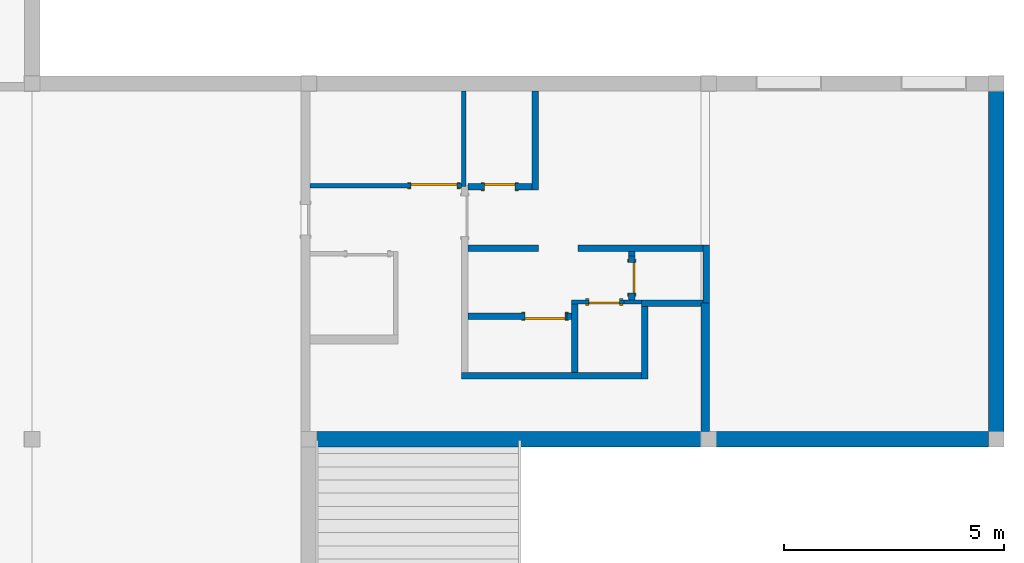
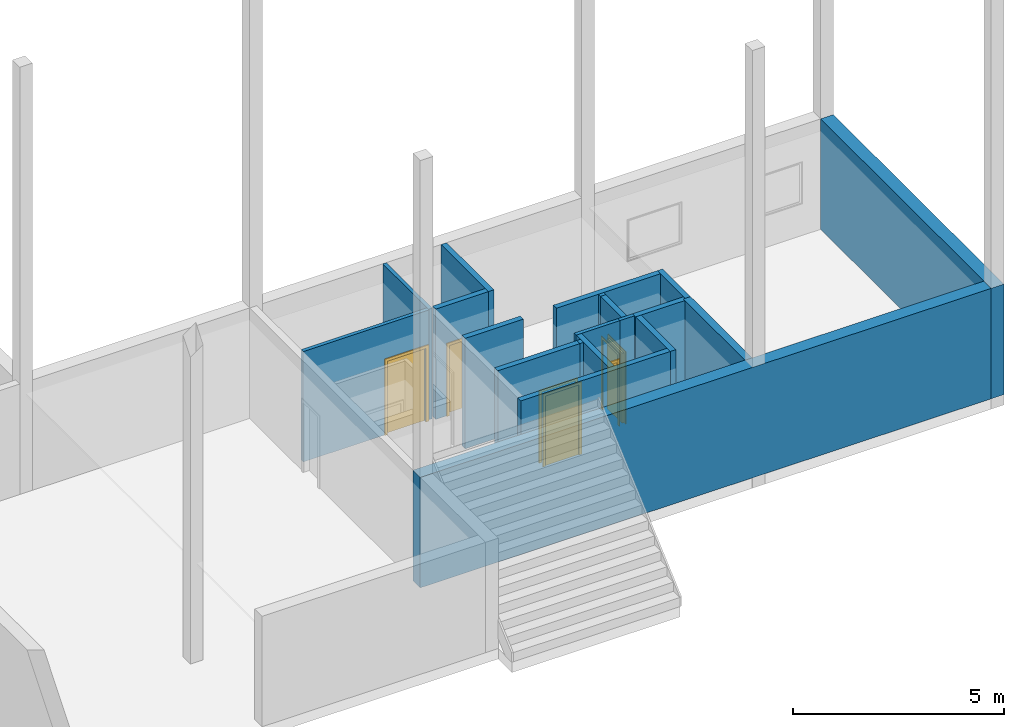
# One storey, part 3 of 5: 20 walls, 5 doors, 5 openings.
"""IFC2X3 building model written with IfcOpenShell, lengths in metres."""

import ifcopenshell
import ifcopenshell.guid

model = None  # the IFC model being written
_history = None  # IfcOwnerHistory: only IFC2X3 demands one
_inside = {}  # id of a spatial element -> (the spatial element, [elements in it])
_under = {}  # id of a project, library or spatial element -> (it, [spatial elements below it])
_declared = {}  # id of a project -> (the project, [libraries it declares])
_typed = {}  # id of a type object -> (the type object, [elements of that type])
_made_of = {}  # id of a material, layer set ... -> (it, [elements and type objects made of it])


def new_model(schema):
    """Start an empty IFC model of exactly this schema.

    Asked for "IFC4X3", IfcOpenShell would pick the latest addendum, in which some entities
    have other attributes; the version numbers below select the first issue.
    IFC2X3 requires an IfcOwnerHistory on every rooted entity: one is made here for all.
    """
    global model, _history
    if schema == "IFC4X3":
        model = ifcopenshell.file(schema_version=(4, 3, 0, 0))
    else:
        model = ifcopenshell.file(schema=schema)
    _inside.clear()
    _under.clear()
    _declared.clear()
    _typed.clear()
    _made_of.clear()
    _history = None
    if model.schema == "IFC2X3":
        org = make("IfcOrganization", Name="unknown")
        user = make(
            "IfcPersonAndOrganization",
            ThePerson=make("IfcPerson", FamilyName="unknown"),
            TheOrganization=org,
        )
        app = make(
            "IfcApplication",
            ApplicationDeveloper=org,
            Version="unknown",
            ApplicationFullName="unknown",
            ApplicationIdentifier="unknown",
        )
        _history = make(
            "IfcOwnerHistory",
            OwningUser=user,
            OwningApplication=app,
            ChangeAction="ADDED",
            CreationDate=0,
        )
    return model


def make(cls, **values):
    """One entity of the class cls with the attributes given. An attribute that is None is left unset."""
    return model.create_entity(
        cls, **{name: value for name, value in values.items() if value is not None}
    )


def entity(cls, *values):
    """Any entity or typed value of the class cls, its attributes in the order of the schema. None: left unset."""
    e = model.create_entity(cls)
    for i, value in enumerate(values):
        if value is not None:
            e[i] = value
    return e


def rooted(cls, **values):
    """An entity with a GlobalId (a new one), such as an element, a storey or a relation."""
    return make(cls, GlobalId=ifcopenshell.guid.new(), OwnerHistory=_history, **values)


def si_unit(unit_type, name, prefix=None):
    """IfcSIUnit, for example si_unit("LENGTHUNIT", "METRE", prefix="MILLI")."""
    return make("IfcSIUnit", UnitType=unit_type, Prefix=prefix, Name=name)


def converted_unit(unit_type, name, factor, base, dimensions=None, offset=None):
    """IfcConversionBasedUnit, such as the inch: factor (a typed value) times the base unit."""
    return make(
        "IfcConversionBasedUnit"
        if offset is None
        else "IfcConversionBasedUnitWithOffset",
        ConversionOffset=offset,
        Dimensions=None
        if dimensions is None
        else entity("IfcDimensionalExponents", *dimensions),
        UnitType=unit_type,
        Name=name,
        ConversionFactor=make(
            "IfcMeasureWithUnit", ValueComponent=factor, UnitComponent=base
        ),
    )


def derived_unit(unit_type, elements):
    """IfcDerivedUnit: a product of units, each with its exponent."""
    return make(
        "IfcDerivedUnit",
        Elements=[
            make("IfcDerivedUnitElement", Unit=unit, Exponent=power)
            for unit, power in elements
        ],
        UnitType=unit_type,
    )


def assignment(units):
    """IfcUnitAssignment: the units of a project."""
    return None if units is None else make("IfcUnitAssignment", Units=units)


def point(xyz):
    """IfcCartesianPoint."""
    return None if xyz is None else make("IfcCartesianPoint", Coordinates=xyz)


def direction(xyz):
    """IfcDirection."""
    return None if xyz is None else make("IfcDirection", DirectionRatios=xyz)


def frame(location, z_axis=None, x_axis=None):
    """IfcAxis2Placement3D, a coordinate frame: its origin and axes. An axis left out is left unset."""
    return make(
        "IfcAxis2Placement3D",
        Location=point(location),
        Axis=direction(z_axis),
        RefDirection=direction(x_axis),
    )


def frame_2d(location, x_axis=None):
    """IfcAxis2Placement2D, a coordinate frame in the plane: its origin and x axis."""
    return make(
        "IfcAxis2Placement2D", Location=point(location), RefDirection=direction(x_axis)
    )


def origin():
    """The frame at (0, 0, 0) with its axes left unset."""
    return frame((0.0, 0.0, 0.0))


def origin_2d_with_axis():
    """The frame at (0, 0) in the plane with the x axis (1, 0) written out."""
    return frame_2d((0.0, 0.0), x_axis=(1.0, 0.0))


def place(relative_to, where):
    """IfcLocalPlacement: puts the frame where relative to a parent placement (None: the world)."""
    return make(
        "IfcLocalPlacement", PlacementRelTo=relative_to, RelativePlacement=where
    )


def context(
    kind, dimensions, precision=None, world=None, true_north=None, identifier=None
):
    """IfcGeometricRepresentationContext, for example the 3D "Model" context."""
    return make(
        "IfcGeometricRepresentationContext",
        ContextIdentifier=identifier,
        ContextType=kind,
        CoordinateSpaceDimension=dimensions,
        Precision=precision,
        WorldCoordinateSystem=world,
        TrueNorth=true_north,
    )


def subcontext(parent, identifier, kind, view, scale=None):
    """IfcGeometricRepresentationSubContext, for example "Body" below "Model"."""
    return make(
        "IfcGeometricRepresentationSubContext",
        ContextIdentifier=identifier,
        ContextType=kind,
        ParentContext=parent,
        TargetScale=scale,
        TargetView=view,
    )


def project(units=None, contexts=None):
    """IfcProject with its units and contexts."""
    return rooted(
        "IfcProject",
        Name="project",
        RepresentationContexts=contexts,
        UnitsInContext=assignment(units),
    )


def spatial(cls, under=None, at=None, **own):
    """A site, building, storey or space (cls), placed at a placement, below another one or the project."""
    s = rooted(cls, ObjectPlacement=at, **own)
    if under is not None:
        _under.setdefault(under.id(), (under, []))[1].append(s)
    return s


def polyline(points):
    """IfcPolyline through the points."""
    return make("IfcPolyline", Points=[point(p) for p in points])


def profile(cls, at=None, kind="AREA", **sizes):
    """A parametric profile (cls). Its sizes go by their IFC names, for example OverallWidth=200.0."""
    return make(cls, ProfileType=kind, Position=at, **sizes)


def rectangle(**sizes):
    """IfcRectangleProfileDef."""
    return profile("IfcRectangleProfileDef", **sizes)


def outline(outer, holes=None, kind="AREA"):
    """IfcArbitraryClosedProfileDef: a profile drawn as a closed curve; with holes, ...WithVoids."""
    if holes is None:
        return make("IfcArbitraryClosedProfileDef", ProfileType=kind, OuterCurve=outer)
    return make(
        "IfcArbitraryProfileDefWithVoids",
        ProfileType=kind,
        OuterCurve=outer,
        InnerCurves=holes,
    )


def extrude(swept, where, along, depth):
    """IfcExtrudedAreaSolid: the profile swept, set in the frame where, extruded along a direction by depth."""
    return make(
        "IfcExtrudedAreaSolid",
        SweptArea=swept,
        Position=where,
        ExtrudedDirection=direction(along),
        Depth=depth,
    )


def shape(context_of_items, identifier, shape_type, items):
    """IfcShapeRepresentation: the items that make up one representation, for example the "Body"."""
    return make(
        "IfcShapeRepresentation",
        ContextOfItems=context_of_items,
        RepresentationIdentifier=identifier,
        RepresentationType=shape_type,
        Items=items,
    )


def source(mapping_origin, context_of_items, identifier, shape_type, items):
    """IfcRepresentationMap: a shape defined once, which mapped items show again and again."""
    return make(
        "IfcRepresentationMap",
        MappingOrigin=mapping_origin,
        MappedRepresentation=shape(context_of_items, identifier, shape_type, items),
    )


def transform(
    local_origin,
    x_axis=None,
    y_axis=None,
    z_axis=None,
    scale=None,
    scale2=None,
    scale3=None,
    uniform=True,
):
    """IfcCartesianTransformationOperator3D, or its non-uniform kind. x_axis, y_axis, z_axis: its Axis1, 2, 3."""
    if uniform:
        return make(
            "IfcCartesianTransformationOperator3D",
            Axis1=direction(x_axis),
            Axis2=direction(y_axis),
            LocalOrigin=point(local_origin),
            Scale=scale,
            Axis3=direction(z_axis),
        )
    return make(
        "IfcCartesianTransformationOperator3DnonUniform",
        Axis1=direction(x_axis),
        Axis2=direction(y_axis),
        LocalOrigin=point(local_origin),
        Scale=scale,
        Axis3=direction(z_axis),
        Scale2=scale2,
        Scale3=scale3,
    )


def mapped(mapping_source, mapping_target):
    """IfcMappedItem: shows the shape of a source again, moved by a transform."""
    return make(
        "IfcMappedItem", MappingSource=mapping_source, MappingTarget=mapping_target
    )


def material(Name=None, Category=None):
    """IfcMaterial."""
    return make("IfcMaterial", Name=Name, Category=Category)


def material_list(materials):
    """IfcMaterialList."""
    return make("IfcMaterialList", Materials=materials)


def layer(
    of_material, thickness, ventilated=None, Name=None, Category=None, Priority=None
):
    """IfcMaterialLayer: one layer of a wall or slab, of a material (None: an air gap)."""
    return make(
        "IfcMaterialLayer",
        Material=of_material,
        LayerThickness=thickness,
        IsVentilated=ventilated,
        Name=Name,
        Category=Category,
        Priority=Priority,
    )


def layer_set(layers, Name=None):
    """IfcMaterialLayerSet."""
    return make("IfcMaterialLayerSet", MaterialLayers=layers, LayerSetName=Name)


def layer_usage(for_layer_set, set_direction, sense, offset, extent=None):
    """IfcMaterialLayerSetUsage: how a layer set lies in its element."""
    return make(
        "IfcMaterialLayerSetUsage",
        ForLayerSet=for_layer_set,
        LayerSetDirection=set_direction,
        DirectionSense=sense,
        OffsetFromReferenceLine=offset,
        ReferenceExtent=extent,
    )


def made_of(thing, what):
    """Note that an element or type object is made of a material, layer set ...; save() writes the relation."""
    if what is not None:
        _made_of.setdefault(what.id(), (what, []))[1].append(thing)
    return thing


def type_object(cls, material=None, **own):
    """A type object (cls), such as IfcWallType, which elements share."""
    return made_of(rooted(cls, **own), material)


def type_shapes(of_type, sources):
    """Give a type object the sources (RepresentationMaps) that its elements show as mapped items."""
    of_type.RepresentationMaps = sources


def element(
    cls,
    number,
    at=None,
    inside=None,
    cuts=None,
    type_object=None,
    material=None,
    context=None,
    identifier="Body",
    shape_type=None,
    held_by="IfcProductDefinitionShape",
    body=None,
    shapes=None,
    **own,
):
    """One element of the class cls, such as IfcWall. Its Tag is "e" and its number.

    at: its placement. inside: the storey or other place that contains it. cuts: it is an
    opening in that element (IfcRelVoidsElement). A single representation is given by context,
    identifier, shape_type and body (its items); several are given by shapes. held_by: the class
    of the entity that holds the representations. save() writes the other relations.
    """
    e = rooted(cls, Tag="e%d" % number, ObjectPlacement=at, **own)
    if body is not None:
        shapes = [shape(context, identifier, shape_type, body)]
    if shapes is not None:
        e.Representation = make(held_by, Representations=shapes)
    if inside is not None:
        _inside.setdefault(inside.id(), (inside, []))[1].append(e)
    if cuts is not None:
        rooted(
            "IfcRelVoidsElement", RelatingBuildingElement=cuts, RelatedOpeningElement=e
        )
    if type_object is not None:
        _typed.setdefault(type_object.id(), (type_object, []))[1].append(e)
    return made_of(e, material)


def fill(opening, filler):
    """IfcRelFillsElement: the door or window that sits in an opening."""
    return rooted(
        "IfcRelFillsElement",
        RelatingOpeningElement=opening,
        RelatedBuildingElement=filler,
    )


def aggregate(whole, parts):
    """IfcRelAggregates: a whole, such as a stair, and the parts it consists of."""
    return rooted("IfcRelAggregates", RelatingObject=whole, RelatedObjects=parts)


def save(model, path):
    """Write the relations noted so far, then the file.

    IfcRelAggregates (storeys below a building ...), IfcRelContainedInSpatialStructure (elements
    in a storey), IfcRelDefinesByType, IfcRelAssociatesMaterial and IfcRelDeclares: one each for
    every whole, place, type object, material and project.
    """
    for whole, parts in _under.values():
        aggregate(whole, parts)
    for where, things in _inside.values():
        rooted(
            "IfcRelContainedInSpatialStructure",
            RelatedElements=things,
            RelatingStructure=where,
        )
    for kind, things in _typed.values():
        rooted("IfcRelDefinesByType", RelatedObjects=things, RelatingType=kind)
    for what, things in _made_of.values():
        rooted("IfcRelAssociatesMaterial", RelatedObjects=things, RelatingMaterial=what)
    for by, libraries in _declared.values():
        rooted("IfcRelDeclares", RelatingContext=by, RelatedDefinitions=libraries)
    model.write(path)


model = new_model("IFC2X3")

# Units and contexts
model_context = context("Model", 3, precision=1e-05, world=origin(), true_north=direction((6.123031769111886e-17, 1.0)))
body_context = subcontext(model_context, "Body", "Model", "MODEL_VIEW")
ifc_project = project(units=[si_unit("LENGTHUNIT", "METRE"), si_unit("AREAUNIT", "SQUARE_METRE"), si_unit("VOLUMEUNIT", "CUBIC_METRE"), converted_unit("PLANEANGLEUNIT", "DEGREE", entity("IfcRatioMeasure", 0.017453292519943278), si_unit("PLANEANGLEUNIT", "RADIAN"), dimensions=[0, 0, 0, 0, 0, 0, 0]), si_unit("MASSUNIT", "GRAM", prefix="KILO"), derived_unit("MASSDENSITYUNIT", [(si_unit("MASSUNIT", "GRAM", prefix="KILO"), 1), (si_unit("LENGTHUNIT", "METRE"), -3)]), derived_unit("MOMENTOFINERTIAUNIT", [(si_unit("LENGTHUNIT", "METRE"), 4)]), si_unit("TIMEUNIT", "SECOND"), si_unit("FREQUENCYUNIT", "HERTZ"), si_unit("THERMODYNAMICTEMPERATUREUNIT", "DEGREE_CELSIUS"), derived_unit("THERMALTRANSMITTANCEUNIT", [(si_unit("MASSUNIT", "GRAM", prefix="KILO"), 1), (si_unit("THERMODYNAMICTEMPERATUREUNIT", "KELVIN"), -1), (si_unit("TIMEUNIT", "SECOND"), -3)]), derived_unit("VOLUMETRICFLOWRATEUNIT", [(si_unit("LENGTHUNIT", "METRE"), 3), (si_unit("TIMEUNIT", "SECOND"), -1)]), derived_unit("MASSFLOWRATEUNIT", [(si_unit("MASSUNIT", "GRAM", prefix="KILO"), 1), (si_unit("TIMEUNIT", "SECOND"), -1)]), derived_unit("ROTATIONALFREQUENCYUNIT", [(si_unit("TIMEUNIT", "SECOND"), -1)]), si_unit("ELECTRICCURRENTUNIT", "AMPERE"), si_unit("ELECTRICVOLTAGEUNIT", "VOLT"), si_unit("POWERUNIT", "WATT"), si_unit("FORCEUNIT", "NEWTON", prefix="KILO"), si_unit("ILLUMINANCEUNIT", "LUX"), si_unit("LUMINOUSFLUXUNIT", "LUMEN"), si_unit("LUMINOUSINTENSITYUNIT", "CANDELA"), derived_unit("USERDEFINED", [(si_unit("MASSUNIT", "GRAM", prefix="KILO"), -1), (si_unit("LENGTHUNIT", "METRE"), -2), (si_unit("TIMEUNIT", "SECOND"), 3), (si_unit("LUMINOUSFLUXUNIT", "LUMEN"), 1)]), derived_unit("SOUNDPOWERUNIT", [(si_unit("MASSUNIT", "GRAM", prefix="KILO"), 1), (si_unit("LENGTHUNIT", "METRE"), 2), (si_unit("TIMEUNIT", "SECOND"), -3)]), derived_unit("SOUNDPRESSUREUNIT", [(si_unit("MASSUNIT", "GRAM", prefix="KILO"), 1), (si_unit("LENGTHUNIT", "METRE"), -1), (si_unit("TIMEUNIT", "SECOND"), -2)]), derived_unit("LINEARVELOCITYUNIT", [(si_unit("LENGTHUNIT", "METRE"), 1), (si_unit("TIMEUNIT", "SECOND"), -1)]), si_unit("PRESSUREUNIT", "PASCAL"), derived_unit("USERDEFINED", [(si_unit("LENGTHUNIT", "METRE"), -2), (si_unit("MASSUNIT", "GRAM", prefix="KILO"), 1), (si_unit("TIMEUNIT", "SECOND"), -2)]), derived_unit("LINEARFORCEUNIT", [(si_unit("MASSUNIT", "GRAM", prefix="KILO"), 1), (si_unit("LENGTHUNIT", "METRE"), 1), (si_unit("TIMEUNIT", "SECOND"), -2), (si_unit("LENGTHUNIT", "METRE"), -1)]), derived_unit("PLANARFORCEUNIT", [(si_unit("MASSUNIT", "GRAM", prefix="KILO"), 1), (si_unit("LENGTHUNIT", "METRE"), 1), (si_unit("TIMEUNIT", "SECOND"), -2), (si_unit("LENGTHUNIT", "METRE"), -2)])], contexts=[model_context])

# Site, building, storey
site_placement = place(None, origin())
site = spatial("IfcSite", under=ifc_project, at=site_placement, Name="Default", CompositionType="ELEMENT")
building_placement = place(site_placement, origin())
building = spatial("IfcBuilding", under=site, at=building_placement, CompositionType="ELEMENT")
storey_placement = place(building_placement, frame((0.0, 0.0, -2.3)))
storey = spatial("IfcBuildingStorey", under=building, at=storey_placement, Name="B1", CompositionType="ELEMENT", Elevation=-2.3)

# Walls
ifc_material_1 = material(Name="Masonry - Concrete Block")
ifc_layer_1 = layer(ifc_material_1, 0.35)
ifc_layer_set_1 = layer_set([ifc_layer_1], Name="Basic Wall:CW 102-50-100p")
ifc_layer_usage_1 = layer_usage(ifc_layer_set_1, "AXIS2", "NEGATIVE", 0.175)
wall_type_1 = type_object("IfcWallType", Name="Basic Wall:CW 102-50-100p", PredefinedType="STANDARD", material=ifc_layer_set_1)
wall_1_placement = place(storey_placement, frame((28.732683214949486, 2.6497074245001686, 0.0), z_axis=(0.0, 0.0, 1.0), x_axis=(0.0, -1.0, 0.0)))
element("IfcWallStandardCase", 1, at=wall_1_placement, inside=storey, type_object=wall_type_1, material=ifc_layer_usage_1, Name="Basic Wall:CW 102-50-100p", ObjectType="Basic Wall:CW 102-50-100p", context=body_context, shape_type="SweptSolid", body=[
    extrude(rectangle(XDim=8.099999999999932, YDim=0.3499999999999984, at=frame_2d((4.049999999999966, 2.7755575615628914e-16), x_axis=(-1.0, 0.0))), origin(), (0.0, 0.0, 1.0), 3.2),
])
ifc_layer_usage_2 = layer_usage(ifc_layer_set_1, "AXIS2", "NEGATIVE", 0.175)
wall_2_placement = place(storey_placement, frame((28.557683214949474, -5.275292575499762, 0.0), z_axis=(0.0, 0.0, 1.0), x_axis=(-1.0, 0.0, 0.0)))
element("IfcWallStandardCase", 2, at=wall_2_placement, inside=storey, type_object=wall_type_1, material=ifc_layer_usage_2, Name="Basic Wall:CW 102-50-100p", ObjectType="Basic Wall:CW 102-50-100p", context=body_context, shape_type="SweptSolid", body=[
    extrude(rectangle(XDim=15.650000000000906, YDim=0.3500000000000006, at=frame_2d((7.825000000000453, 0.0), x_axis=(-1.0, 0.0))), origin(), (0.0, 0.0, 1.0), 3.2),
])
ifc_layer_2 = layer(ifc_material_1, 0.2)
ifc_layer_set_2 = layer_set([ifc_layer_2], Name="Basic Wall:CW 200")
ifc_layer_usage_3 = layer_usage(ifc_layer_set_2, "AXIS2", "NEGATIVE", 0.1)
wall_type_2 = type_object("IfcWallType", Name="Basic Wall:CW 200", PredefinedType="STANDARD", material=ifc_layer_set_2)
wall_3_placement = place(storey_placement, frame((22.1076832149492, -5.100292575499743, 0.0), z_axis=(0.0, 0.0, 1.0), x_axis=(0.0, 1.0, 0.0)))
element("IfcWallStandardCase", 3, at=wall_3_placement, inside=storey, type_object=wall_type_2, material=ifc_layer_usage_3, Name="Basic Wall:CW 200", ObjectType="Basic Wall:CW 200", context=body_context, shape_type="SweptSolid", body=[
    extrude(rectangle(XDim=2.9249161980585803, YDim=0.19999999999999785, at=frame_2d((1.4624580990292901, -4.85722573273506e-17), x_axis=(-1.0, 0.0))), origin(), (0.0, 0.0, 1.0), 3.2),
])
ifc_layer_3 = layer(ifc_material_1, 0.1)
ifc_layer_set_3 = layer_set([ifc_layer_3], Name="Basic Wall:CW 100")
ifc_layer_usage_4 = layer_usage(ifc_layer_set_3, "AXIS2", "NEGATIVE", 0.05)
wall_type_3 = type_object("IfcWallType", Name="Basic Wall:CW 100", PredefinedType="STANDARD", material=ifc_layer_set_3)
wall_4_placement = place(storey_placement, frame((16.607683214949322, 2.649707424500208, 0.0), z_axis=(0.0, 0.0, 1.0), x_axis=(0.0, -1.0, 0.0)))
element("IfcWallStandardCase", 4, at=wall_4_placement, inside=storey, type_object=wall_type_3, material=ifc_layer_usage_4, Name="Basic Wall:CW 100", ObjectType="Basic Wall:CW 100", context=body_context, shape_type="SweptSolid", body=[
    extrude(rectangle(XDim=2.175000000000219, YDim=0.09999999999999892, at=frame_2d((1.0875000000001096, 7.632783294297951e-17), x_axis=(-1.0, 0.0))), origin(), (0.0, 0.0, 1.0), 3.2),
])

# Wall, opening, door
ifc_layer_usage_5 = layer_usage(ifc_layer_set_3, "AXIS2", "NEGATIVE", 0.05)
wall_5_placement = place(storey_placement, frame((16.557683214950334, 0.4997074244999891, 0.0), z_axis=(0.0, 0.0, 1.0), x_axis=(-1.0, 0.0, 0.0)))
wall_5 = element("IfcWallStandardCase", 5, at=wall_5_placement, inside=storey, type_object=wall_type_3, material=ifc_layer_usage_5, Name="Basic Wall:CW 100", ObjectType="Basic Wall:CW 100", context=body_context, shape_type="SweptSolid", body=[
    extrude(rectangle(XDim=3.4500000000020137, YDim=0.1, at=frame_2d((1.7250000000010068, 0.0), x_axis=(1.0, 0.0))), origin(), (0.0, 0.0, 1.0), 3.2),
])
opening_1_placement = place(wall_5_placement, frame((1.1500000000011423, 0.04999999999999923, 0.0)))
opening_1 = element("IfcOpeningElement", 6, at=opening_1_placement, cuts=wall_5, Name="M_Single-Flush:0915 x 2134mm:1", ObjectType="Opening", context=body_context, shape_type="SweptSolid", body=[
    extrude(rectangle(XDim=1.0499999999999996, YDim=2.1339999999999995, at=frame_2d((1.0669999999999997, 0.5249999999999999), x_axis=(0.0, -1.0))), frame((0.0, 0.0, 0.0), z_axis=(0.0, -1.0, 0.0), x_axis=(0.0, 0.0, 1.0)), (0.0, 0.0, 1.0), 0.1),
])
ifc_material_2 = material(Name="Door - Frame")
ifc_material_3 = material(Name="Door - Panel")
ifc_material_list_1 = material_list([ifc_material_2, ifc_material_2, ifc_material_3])
ifc_material_list_2 = material_list([ifc_material_2, ifc_material_2, ifc_material_3])
door_style_1 = type_object("IfcDoorStyle", Name="M_Single-Flush:0915 x 2134mm", ConstructionType="NOTDEFINED", OperationType="NOTDEFINED", ParameterTakesPrecedence=False, Sizeable=False, material=ifc_material_list_2)
shared_shape_1 = source(origin(), body_context, "Body", "SweptSolid", [
    extrude(outline(polyline([(-0.601, -1.123999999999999), (0.6009999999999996, -1.123999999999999), (0.6009999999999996, 1.0860000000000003), (0.5250000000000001, 1.0860000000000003), (0.5250000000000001, -1.0480000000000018), (-0.5249999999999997, -1.0480000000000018), (-0.5249999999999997, 1.0860000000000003), (-0.601, 1.0860000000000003), (-0.601, -1.123999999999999)])), frame((0.525, 0.12499999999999, 1.0860000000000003), z_axis=(0.0, -1.0, 0.0), x_axis=(-1.0, 0.0, 0.0)), (0.0, 0.0, 1.0), 0.024999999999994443),
    extrude(outline(polyline([(-1.1239999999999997, -0.6009999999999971), (1.0859999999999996, -0.6009999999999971), (1.0859999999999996, -0.5250000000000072), (-1.0479999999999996, -0.5250000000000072), (-1.0479999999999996, 0.5250000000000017), (1.0859999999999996, 0.5250000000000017), (1.0859999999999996, 0.6010000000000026), (-1.1239999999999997, 0.6010000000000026), (-1.1239999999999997, -0.6009999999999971)])), frame((0.5249999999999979, 0.0, 1.0859999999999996), z_axis=(0.0, -1.0, 0.0), x_axis=(0.0, 0.0, -1.0)), (0.0, 0.0, 1.0), 0.02500000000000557),
    extrude(rectangle(XDim=1.0499999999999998, YDim=0.051000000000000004, at=origin_2d_with_axis()), frame((0.5250000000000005, 0.07449999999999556, 0.0)), (0.0, 0.0, 1.0), 2.133999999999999),
])
type_shapes(door_style_1, [shared_shape_1])
door_1_placement = place(opening_1_placement, frame((0.0, 0.0, 0.0), z_axis=(0.0, 0.0, 1.0), x_axis=(-1.0, 0.0, 0.0)))
door_1 = element("IfcDoor", 7, at=door_1_placement, inside=storey, type_object=door_style_1, material=ifc_material_list_1, Name="M_Single-Flush:0915 x 2134mm", ObjectType="M_Single-Flush:0915 x 2134mm", OverallHeight=2.1339999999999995, OverallWidth=1.0499999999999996, context=body_context, shape_type="MappedRepresentation", body=[
    mapped(shared_shape_1, transform((0.0, 0.0, 0.0), scale=1.0)),
])
fill(opening_1, door_1)

ifc_layer_usage_6 = layer_usage(ifc_layer_set_3, "AXIS2", "NEGATIVE", 0.05)
wall_6_placement = place(storey_placement, frame((19.059190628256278, -2.1502875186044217, 0.0)))
wall_6 = element("IfcWallStandardCase", 8, at=wall_6_placement, inside=storey, type_object=wall_type_3, material=ifc_layer_usage_6, Name="Basic Wall:CW 100", ObjectType="Basic Wall:CW 100", context=body_context, shape_type="SweptSolid", body=[
    extrude(rectangle(XDim=1.1999999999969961, YDim=0.1, at=frame_2d((0.5999999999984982, -1.3530843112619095e-16), x_axis=(1.0, 0.0))), origin(), (0.0, 0.0, 1.0), 3.2),
])
opening_2_placement = place(wall_6_placement, frame((1.099999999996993, 0.04999999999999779, 0.0)))
opening_2 = element("IfcOpeningElement", 9, at=opening_2_placement, cuts=wall_6, Name="M_Single-Flush:0762 x 2032mm:1", ObjectType="Opening", context=body_context, shape_type="SweptSolid", body=[
    extrude(rectangle(XDim=0.6999999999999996, YDim=2.0319999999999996, at=frame_2d((1.0159999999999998, 0.3499999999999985), x_axis=(0.0, 1.0))), frame((0.0, 0.0, 0.0), z_axis=(0.0, -1.0, 0.0), x_axis=(0.0, 0.0, 1.0)), (0.0, 0.0, 1.0), 0.1),
])
ifc_material_list_3 = material_list([ifc_material_2, ifc_material_3])
ifc_material_list_4 = material_list([ifc_material_2, ifc_material_2, ifc_material_3])
door_style_2 = type_object("IfcDoorStyle", Name="M_Single-Flush:0762 x 2032mm", ConstructionType="NOTDEFINED", OperationType="NOTDEFINED", ParameterTakesPrecedence=False, Sizeable=False, material=ifc_material_list_4)
shared_shape_2 = source(origin(), body_context, "Body", "SweptSolid", [
    extrude(outline(polyline([(-0.426, -1.0729999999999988), (0.4259999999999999, -1.0729999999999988), (0.4259999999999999, 1.0350000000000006), (0.3499999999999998, 1.0350000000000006), (0.3499999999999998, -0.9970000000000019), (-0.3499999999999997, -0.9970000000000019), (-0.3499999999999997, 1.0350000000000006), (-0.426, 1.0350000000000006), (-0.426, -1.0729999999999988)])), frame((0.3500000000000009, 0.10000000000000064, 1.0350000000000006), z_axis=(0.0, 1.0, 0.0), x_axis=(1.0, 0.0, 0.0)), (0.0, 0.0, 1.0), 0.024999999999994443),
    extrude(outline(polyline([(-1.0729999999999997, -0.42599999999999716), (1.0349999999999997, -0.42599999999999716), (1.0349999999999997, -0.3500000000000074), (-0.9969999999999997, -0.3500000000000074), (-0.9969999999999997, 0.35000000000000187), (1.0349999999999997, 0.35000000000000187), (1.0349999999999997, 0.4260000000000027), (-1.0729999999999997, 0.4260000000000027), (-1.0729999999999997, -0.42599999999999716)])), frame((0.35000000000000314, -0.025000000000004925, 1.0349999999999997), z_axis=(0.0, 1.0, 0.0), x_axis=(0.0, 0.0, -1.0)), (0.0, 0.0, 1.0), 0.025000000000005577),
    extrude(rectangle(XDim=0.051000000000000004, YDim=0.6999999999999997, at=origin_2d_with_axis()), frame((0.3500000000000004, 0.07450000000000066, 0.0), z_axis=(0.0, 0.0, 1.0), x_axis=(0.0, 1.0, 0.0)), (0.0, 0.0, 1.0), 2.0319999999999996),
])
type_shapes(door_style_2, [shared_shape_2])
door_2_placement = place(opening_2_placement, frame((0.0, 0.0, 0.0), z_axis=(0.0, 0.0, 1.0), x_axis=(-1.0, 0.0, 0.0)))
door_2 = element("IfcDoor", 10, at=door_2_placement, inside=storey, type_object=door_style_2, material=ifc_material_list_3, Name="M_Single-Flush:0762 x 2032mm", ObjectType="M_Single-Flush:0762 x 2032mm", OverallHeight=2.0319999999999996, OverallWidth=0.6999999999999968, context=body_context, shape_type="MappedRepresentation", body=[
    mapped(shared_shape_2, transform((0.0, 0.0, 0.0), scale=1.0)),
])
fill(opening_2, door_2)

# Walls
ifc_layer_usage_7 = layer_usage(ifc_layer_set_3, "AXIS2", "NEGATIVE", 0.05)
wall_7_placement = place(storey_placement, frame((20.6576832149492, -2.1503763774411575, 0.0), z_axis=(0.0, 0.0, 1.0), x_axis=(-1.0, 0.0, 0.0)))
element("IfcWallStandardCase", 11, at=wall_7_placement, inside=storey, type_object=wall_type_3, material=ifc_layer_usage_7, Name="Basic Wall:CW 100", ObjectType="Basic Wall:CW 100", context=body_context, shape_type="SweptSolid", body=[
    extrude(rectangle(XDim=0.39849258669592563, YDim=0.1, at=frame_2d((0.19924629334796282, 0.0), x_axis=(-1.0, 0.0))), origin(), (0.0, 0.0, 1.0), 3.2),
])
ifc_layer_4 = layer(ifc_material_1, 0.14999999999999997)
ifc_layer_set_4 = layer_set([ifc_layer_4], Name="Basic Wall:CW 150")
ifc_layer_usage_8 = layer_usage(ifc_layer_set_4, "AXIS2", "NEGATIVE", 0.07499999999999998)
wall_type_4 = type_object("IfcWallType", Name="Basic Wall:CW 150", PredefinedType="STANDARD", material=ifc_layer_set_4)
wall_8_placement = place(storey_placement, frame((18.23268321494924, 2.649707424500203, 0.0), z_axis=(0.0, 0.0, 1.0), x_axis=(0.0, -1.0, 0.0)))
element("IfcWallStandardCase", 12, at=wall_8_placement, inside=storey, type_object=wall_type_4, material=ifc_layer_usage_8, Name="Basic Wall:CW 150", ObjectType="Basic Wall:CW 150", context=body_context, shape_type="SweptSolid", body=[
    extrude(rectangle(XDim=2.2500000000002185, YDim=0.15000000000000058, at=frame_2d((1.1250000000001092, 1.5959455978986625e-16), x_axis=(-1.0, 0.0))), origin(), (0.0, 0.0, 1.0), 3.2),
])

# Wall, opening, door
ifc_layer_usage_9 = layer_usage(ifc_layer_set_4, "AXIS2", "NEGATIVE", 0.07499999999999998)
wall_9_placement = place(storey_placement, frame((18.157683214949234, 0.474707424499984, 0.0), z_axis=(0.0, 0.0, 1.0), x_axis=(-1.0, 0.0, 0.0)))
wall_9 = element("IfcWallStandardCase", 13, at=wall_9_placement, inside=storey, type_object=wall_type_4, material=ifc_layer_usage_9, Name="Basic Wall:CW 150", ObjectType="Basic Wall:CW 150", context=body_context, shape_type="SweptSolid", body=[
    extrude(rectangle(XDim=1.4499999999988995, YDim=0.15000000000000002, at=frame_2d((0.7249999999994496, -6.938893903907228e-18), x_axis=(1.0, 0.0))), origin(), (0.0, 0.0, 1.0), 3.2),
])
opening_3_placement = place(wall_9_placement, frame((1.079999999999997, 0.07499999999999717, 0.0)))
opening_3 = element("IfcOpeningElement", 14, at=opening_3_placement, cuts=wall_9, Name="M_Single-Flush:0762 x 2032mm:1", ObjectType="Opening", context=body_context, shape_type="SweptSolid", body=[
    extrude(rectangle(XDim=0.6999999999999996, YDim=2.0319999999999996, at=frame_2d((1.0159999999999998, 0.34999999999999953), x_axis=(0.0, 1.0))), frame((0.0, 0.0, 0.0), z_axis=(0.0, -1.0, 0.0), x_axis=(0.0, 0.0, 1.0)), (0.0, 0.0, 1.0), 0.14999999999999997),
])
ifc_material_list_5 = material_list([ifc_material_2, ifc_material_3])
ifc_material_list_6 = material_list([ifc_material_2, ifc_material_2, ifc_material_3])
door_style_3 = type_object("IfcDoorStyle", Name="M_Single-Flush:0762 x 2032mm", ConstructionType="NOTDEFINED", OperationType="NOTDEFINED", ParameterTakesPrecedence=False, Sizeable=False, material=ifc_material_list_6)
shared_shape_3 = source(origin(), body_context, "Body", "SweptSolid", [
    extrude(outline(polyline([(-0.426, -1.0729999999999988), (0.4259999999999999, -1.0729999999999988), (0.4259999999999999, 1.0350000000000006), (0.3499999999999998, 1.0350000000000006), (0.3499999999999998, -0.9970000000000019), (-0.3499999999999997, -0.9970000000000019), (-0.3499999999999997, 1.0350000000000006), (-0.426, 1.0350000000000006), (-0.426, -1.0729999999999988)])), frame((0.35000000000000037, 0.15000000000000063, 1.0350000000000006), z_axis=(0.0, 1.0, 0.0), x_axis=(1.0, 0.0, 0.0)), (0.0, 0.0, 1.0), 0.024999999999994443),
    extrude(outline(polyline([(-1.0729999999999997, -0.42599999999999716), (1.0349999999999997, -0.42599999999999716), (1.0349999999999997, -0.3500000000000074), (-0.9969999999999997, -0.3500000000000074), (-0.9969999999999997, 0.35000000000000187), (1.0349999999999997, 0.35000000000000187), (1.0349999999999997, 0.4260000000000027), (-1.0729999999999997, 0.4260000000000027), (-1.0729999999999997, -0.42599999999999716)])), frame((0.35000000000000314, -0.025000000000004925, 1.0349999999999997), z_axis=(0.0, 1.0, 0.0), x_axis=(0.0, 0.0, -1.0)), (0.0, 0.0, 1.0), 0.025000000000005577),
    extrude(rectangle(XDim=0.051000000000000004, YDim=0.6999999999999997, at=frame_2d((-3.469446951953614e-18, 0.0), x_axis=(1.0, 0.0))), frame((0.35000000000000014, 0.12450000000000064, 0.0), z_axis=(0.0, 0.0, 1.0), x_axis=(0.0, 1.0, 0.0)), (0.0, 0.0, 1.0), 2.0319999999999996),
])
type_shapes(door_style_3, [shared_shape_3])
door_3_placement = place(opening_3_placement, frame((0.0, 0.0, 0.0), z_axis=(0.0, 0.0, 1.0), x_axis=(-1.0, 0.0, 0.0)))
door_3 = element("IfcDoor", 15, at=door_3_placement, inside=storey, type_object=door_style_3, material=ifc_material_list_5, Name="M_Single-Flush:0762 x 2032mm", ObjectType="M_Single-Flush:0762 x 2032mm", OverallHeight=2.0319999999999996, OverallWidth=0.699999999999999, context=body_context, shape_type="MappedRepresentation", body=[
    mapped(shared_shape_3, transform((0.0, 0.0, 0.0), scale=1.0)),
])
fill(opening_3, door_3)

# Walls
ifc_layer_usage_10 = layer_usage(ifc_layer_set_4, "AXIS2", "NEGATIVE", 0.07499999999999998)
wall_10_placement = place(storey_placement, frame((22.132683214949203, -2.175376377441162, 0.0), z_axis=(0.0, 0.0, 1.0), x_axis=(0.0, 1.0, 0.0)))
element("IfcWallStandardCase", 16, at=wall_10_placement, inside=storey, type_object=wall_type_4, material=ifc_layer_usage_10, Name="Basic Wall:CW 150", ObjectType="Basic Wall:CW 150", context=body_context, shape_type="SweptSolid", body=[
    extrude(rectangle(XDim=1.3249999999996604, YDim=0.15000000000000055, at=frame_2d((0.6624999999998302, 0.0), x_axis=(-1.0, 0.0))), origin(), (0.0, 0.0, 1.0), 3.2),
])
ifc_layer_usage_11 = layer_usage(ifc_layer_set_4, "AXIS2", "NEGATIVE", 0.07499999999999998)
wall_11_placement = place(storey_placement, frame((22.0576832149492, -0.9253763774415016, 0.0), z_axis=(0.0, 0.0, 1.0), x_axis=(-1.0, 0.0, 0.0)))
element("IfcWallStandardCase", 17, at=wall_11_placement, inside=storey, type_object=wall_type_4, material=ifc_layer_usage_11, Name="Basic Wall:CW 150", ObjectType="Basic Wall:CW 150", context=body_context, shape_type="SweptSolid", body=[
    extrude(rectangle(XDim=2.8500000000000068, YDim=0.15000000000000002, at=frame_2d((1.4250000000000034, 2.0816681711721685e-17), x_axis=(-1.0, 0.0))), origin(), (0.0, 0.0, 1.0), 3.2),
])
ifc_layer_usage_12 = layer_usage(ifc_layer_set_4, "AXIS2", "NEGATIVE", 0.07499999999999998)
wall_12_placement = place(storey_placement, frame((20.434190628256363, -1.0003763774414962, 0.0), z_axis=(0.0, 0.0, 1.0), x_axis=(0.0, -1.0, 0.0)))
element("IfcWallStandardCase", 18, at=wall_12_placement, inside=storey, type_object=wall_type_4, material=ifc_layer_usage_12, Name="Basic Wall:CW 150", ObjectType="Basic Wall:CW 150", context=body_context, shape_type="SweptSolid", body=[
    extrude(rectangle(XDim=0.09991114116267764, YDim=0.15000000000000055, at=frame_2d((0.04995557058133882, 0.0), x_axis=(-1.0, 0.0))), origin(), (0.0, 0.0, 1.0), 3.2),
])
ifc_layer_usage_13 = layer_usage(ifc_layer_set_4, "AXIS2", "NEGATIVE", 0.07499999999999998)
wall_13_placement = place(storey_placement, frame((22.0576832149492, -2.175376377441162, 0.0), z_axis=(0.0, 0.0, 1.0), x_axis=(-1.0, 0.0, 0.0)))
element("IfcWallStandardCase", 19, at=wall_13_placement, inside=storey, type_object=wall_type_4, material=ifc_layer_usage_13, Name="Basic Wall:CW 150", ObjectType="Basic Wall:CW 150", context=body_context, shape_type="SweptSolid", body=[
    extrude(outline(polyline([(-0.08750000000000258, -0.7062499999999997), (0.01249999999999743, -0.7062499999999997), (0.06249999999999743, -0.7062499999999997), (0.062499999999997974, -0.5562499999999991), (0.06250000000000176, 0.6437500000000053), (-0.012499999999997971, 0.6437500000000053), (-0.0124999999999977, 0.6937500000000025), (-0.08749999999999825, 0.6937500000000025), (-0.08750000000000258, -0.7062499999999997)])), frame((0.6937500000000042, 0.012500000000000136, 0.0), z_axis=(0.0, 0.0, 1.0), x_axis=(0.0, 1.0, 0.0)), (0.0, 0.0, 1.0), 3.2),
])
ifc_layer_usage_14 = layer_usage(ifc_layer_set_4, "AXIS2", "NEGATIVE", 0.07499999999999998)
wall_14_placement = place(storey_placement, frame((20.7326832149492, -2.2503763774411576, 0.0), z_axis=(0.0, 0.0, 1.0), x_axis=(0.0, -1.0, 0.0)))
element("IfcWallStandardCase", 20, at=wall_14_placement, inside=storey, type_object=wall_type_4, material=ifc_layer_usage_14, Name="Basic Wall:CW 150", ObjectType="Basic Wall:CW 150", context=body_context, shape_type="SweptSolid", body=[
    extrude(rectangle(XDim=1.6499999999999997, YDim=0.15000000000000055, at=frame_2d((0.8249999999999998, 0.0), x_axis=(-1.0, 0.0))), origin(), (0.0, 0.0, 1.0), 3.2),
])
ifc_layer_usage_15 = layer_usage(ifc_layer_set_4, "AXIS2", "NEGATIVE", 0.07499999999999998)
wall_15_placement = place(storey_placement, frame((20.657683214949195, -3.8253763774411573, 0.0), z_axis=(0.0, 0.0, 1.0), x_axis=(-1.0, 0.0, 0.0)))
element("IfcWallStandardCase", 21, at=wall_15_placement, inside=storey, type_object=wall_type_4, material=ifc_layer_usage_15, Name="Basic Wall:CW 150", ObjectType="Basic Wall:CW 150", context=body_context, shape_type="SweptSolid", body=[
    extrude(rectangle(XDim=4.099999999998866, YDim=0.14999999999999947, at=frame_2d((2.049999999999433, -2.7755575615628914e-17), x_axis=(-1.0, 0.0))), origin(), (0.0, 0.0, 1.0), 3.2),
])
ifc_layer_usage_16 = layer_usage(ifc_layer_set_4, "AXIS2", "NEGATIVE", 0.07499999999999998)
wall_16_placement = place(storey_placement, frame((16.707683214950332, -0.9253763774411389, 0.0)))
element("IfcWallStandardCase", 22, at=wall_16_placement, inside=storey, type_object=wall_type_4, material=ifc_layer_usage_16, Name="Basic Wall:CW 150", ObjectType="Basic Wall:CW 150", context=body_context, shape_type="SweptSolid", body=[
    extrude(rectangle(XDim=1.5999999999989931, YDim=0.15000000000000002, at=frame_2d((0.7999999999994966, 0.0), x_axis=(-1.0, 0.0))), origin(), (0.0, 0.0, 1.0), 3.2),
])

# Wall, opening, door
ifc_layer_usage_17 = layer_usage(ifc_layer_set_4, "AXIS2", "NEGATIVE", 0.07499999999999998)
wall_17_placement = place(storey_placement, frame((16.707683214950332, -2.4752875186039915, 0.0)))
wall_17 = element("IfcWallStandardCase", 23, at=wall_17_placement, inside=storey, type_object=wall_type_4, material=ifc_layer_usage_17, Name="Basic Wall:CW 150", ObjectType="Basic Wall:CW 150", context=body_context, shape_type="SweptSolid", body=[
    extrude(rectangle(XDim=2.2515074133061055, YDim=0.14999999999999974, at=frame_2d((1.1257537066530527, 9.71445146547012e-17), x_axis=(1.0, 0.0))), origin(), (0.0, 0.0, 1.0), 3.2),
])
opening_4_placement = place(wall_17_placement, frame((2.2115074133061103, 0.07499999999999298, 0.0)))
opening_4 = element("IfcOpeningElement", 24, at=opening_4_placement, cuts=wall_17, Name="M_Single-Flush:0915 x 2032mm:1", ObjectType="Opening", context=body_context, shape_type="SweptSolid", body=[
    extrude(rectangle(XDim=0.9149999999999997, YDim=2.0319999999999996, at=frame_2d((1.0159999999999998, 0.4575), x_axis=(0.0, 1.0))), frame((0.0, 0.0, 0.0), z_axis=(0.0, -1.0, 0.0), x_axis=(0.0, 0.0, 1.0)), (0.0, 0.0, 1.0), 0.14999999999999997),
])
ifc_material_list_7 = material_list([ifc_material_2, ifc_material_2, ifc_material_3])
ifc_material_list_8 = material_list([ifc_material_2, ifc_material_2, ifc_material_3])
door_style_4 = type_object("IfcDoorStyle", Name="M_Single-Flush:0915 x 2032mm", ConstructionType="NOTDEFINED", OperationType="NOTDEFINED", ParameterTakesPrecedence=False, Sizeable=False, material=ifc_material_list_8)
shared_shape_4 = source(origin(), body_context, "Body", "SweptSolid", [
    extrude(outline(polyline([(-0.5334999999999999, -1.0729999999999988), (0.5334999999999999, -1.0729999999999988), (0.5334999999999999, 1.0350000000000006), (0.4574999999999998, 1.0350000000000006), (0.4574999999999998, -0.9970000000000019), (-0.4574999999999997, -0.9970000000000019), (-0.4574999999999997, 1.0350000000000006), (-0.5334999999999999, 1.0350000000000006), (-0.5334999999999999, -1.0729999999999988)])), frame((0.45750000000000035, 0.15000000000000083, 1.0350000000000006), z_axis=(0.0, 1.0, 0.0), x_axis=(1.0, 0.0, 0.0)), (0.0, 0.0, 1.0), 0.024999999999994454),
    extrude(outline(polyline([(-1.0729999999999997, -0.5334999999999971), (1.0349999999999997, -0.5334999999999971), (1.0349999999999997, -0.45750000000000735), (-0.9969999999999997, -0.45750000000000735), (-0.9969999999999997, 0.4575000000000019), (1.0349999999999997, 0.4575000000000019), (1.0349999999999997, 0.5335000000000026), (-1.0729999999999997, 0.5335000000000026), (-1.0729999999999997, -0.5334999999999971)])), frame((0.4575000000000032, -0.02500000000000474, 1.0349999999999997), z_axis=(0.0, 1.0, 0.0), x_axis=(0.0, 0.0, -1.0)), (0.0, 0.0, 1.0), 0.025000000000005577),
    extrude(rectangle(XDim=0.051000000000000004, YDim=0.9149999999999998, at=frame_2d((-3.469446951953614e-18, 0.0), x_axis=(1.0, 0.0))), frame((0.45750000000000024, 0.12450000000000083, 0.0), z_axis=(0.0, 0.0, 1.0), x_axis=(0.0, 1.0, 0.0)), (0.0, 0.0, 1.0), 2.0319999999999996),
])
type_shapes(door_style_4, [shared_shape_4])
door_4_placement = place(opening_4_placement, frame((0.0, 0.0, 0.0), z_axis=(0.0, 0.0, 1.0), x_axis=(-1.0, 0.0, 0.0)))
door_4 = element("IfcDoor", 25, at=door_4_placement, inside=storey, type_object=door_style_4, material=ifc_material_list_7, Name="M_Single-Flush:0915 x 2032mm", ObjectType="M_Single-Flush:0915 x 2032mm", OverallHeight=2.0319999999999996, OverallWidth=0.9149999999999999, context=body_context, shape_type="MappedRepresentation", body=[
    mapped(shared_shape_4, transform((0.0, 0.0, 0.0), scale=1.0)),
])
fill(opening_4, door_4)

# Walls
ifc_layer_usage_18 = layer_usage(ifc_layer_set_4, "AXIS2", "NEGATIVE", 0.07499999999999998)
wall_18_placement = place(storey_placement, frame((19.134190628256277, -3.7503763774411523, 0.0), z_axis=(0.0, 0.0, 1.0), x_axis=(0.0, 1.0, 0.0)))
element("IfcWallStandardCase", 26, at=wall_18_placement, inside=storey, type_object=wall_type_4, material=ifc_layer_usage_18, Name="Basic Wall:CW 150", ObjectType="Basic Wall:CW 150", context=body_context, shape_type="SweptSolid", body=[
    extrude(rectangle(XDim=1.5500888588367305, YDim=0.15000000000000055, at=frame_2d((0.7750444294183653, 0.0), x_axis=(-1.0, 0.0))), origin(), (0.0, 0.0, 1.0), 3.2),
])
ifc_layer_usage_19 = layer_usage(ifc_layer_set_4, "AXIS2", "NEGATIVE", 0.07499999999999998)
wall_19_placement = place(storey_placement, frame((19.059190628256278, -2.475287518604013, 0.0), z_axis=(0.0, 0.0, 1.0), x_axis=(-1.0, 0.0, 0.0)))
element("IfcWallStandardCase", 27, at=wall_19_placement, inside=storey, type_object=wall_type_4, material=ifc_layer_usage_19, Name="Basic Wall:CW 150", ObjectType="Basic Wall:CW 150", context=body_context, shape_type="SweptSolid", body=[
    extrude(rectangle(XDim=0.09999999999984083, YDim=0.14999999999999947, at=frame_2d((0.049999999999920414, -2.706168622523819e-16), x_axis=(-1.0, 0.0))), origin(), (0.0, 0.0, 1.0), 3.2),
])

# Wall, opening, door
ifc_layer_usage_20 = layer_usage(ifc_layer_set_4, "AXIS2", "NEGATIVE", 0.07499999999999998)
wall_20_placement = place(storey_placement, frame((20.434190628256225, -2.100376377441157, 0.0), z_axis=(0.0, 0.0, 1.0), x_axis=(0.0, 1.0, 0.0)))
wall_20 = element("IfcWallStandardCase", 28, at=wall_20_placement, inside=storey, type_object=wall_type_4, material=ifc_layer_usage_20, Name="Basic Wall:CW 150", ObjectType="Basic Wall:CW 150", context=body_context, shape_type="SweptSolid", body=[
    extrude(rectangle(XDim=1.000088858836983, YDim=0.15000000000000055, at=frame_2d((0.5000444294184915, 0.0), x_axis=(1.0, 0.0))), origin(), (0.0, 0.0, 1.0), 3.2),
])
opening_5_placement = place(wall_20_placement, frame((0.8500444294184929, 0.07500000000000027, 0.0)))
opening_5 = element("IfcOpeningElement", 29, at=opening_5_placement, cuts=wall_20, Name="M_Single-Flush:0762 x 2032mm:1", ObjectType="Opening", context=body_context, shape_type="SweptSolid", body=[
    extrude(rectangle(XDim=0.7, YDim=2.0319999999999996, at=frame_2d((1.0159999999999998, 0.3499999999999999), x_axis=(0.0, 1.0))), frame((0.0, 0.0, 0.0), z_axis=(0.0, -1.0, 0.0), x_axis=(0.0, 0.0, 1.0)), (0.0, 0.0, 1.0), 0.14999999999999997),
])
ifc_material_list_9 = material_list([ifc_material_2, ifc_material_2, ifc_material_3])
door_5_placement = place(opening_5_placement, frame((0.0, 0.0, 0.0), z_axis=(0.0, 0.0, 1.0), x_axis=(-1.0, 0.0, 0.0)))
door_5 = element("IfcDoor", 30, at=door_5_placement, inside=storey, type_object=door_style_3, material=ifc_material_list_9, Name="M_Single-Flush:0762 x 2032mm", ObjectType="M_Single-Flush:0762 x 2032mm", OverallHeight=2.0319999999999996, OverallWidth=0.7000000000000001, context=body_context, shape_type="MappedRepresentation", body=[
    mapped(shared_shape_3, transform((0.0, 0.0, 0.0), scale=1.0)),
])
fill(opening_5, door_5)

save(model, "model.ifc")
